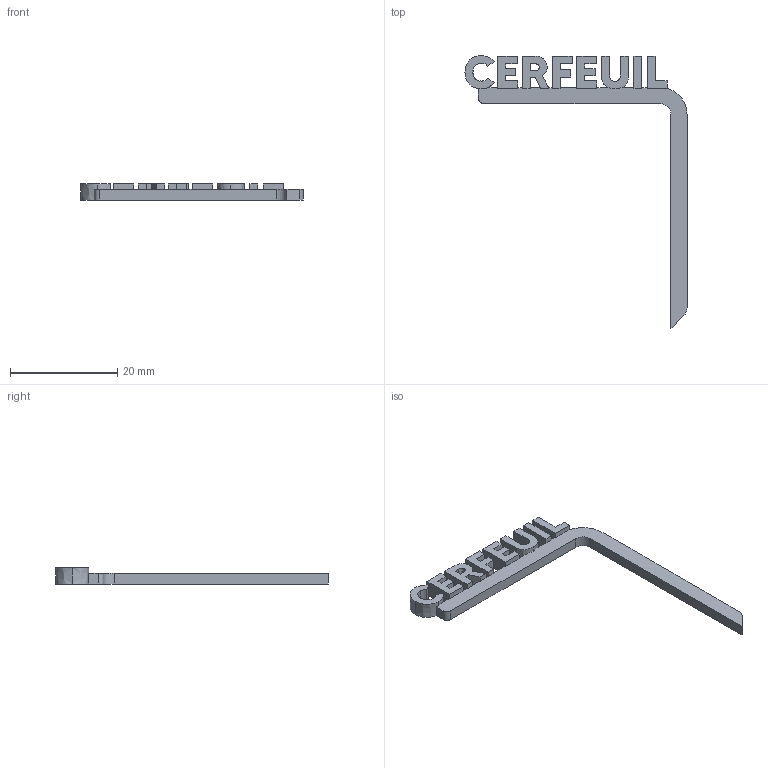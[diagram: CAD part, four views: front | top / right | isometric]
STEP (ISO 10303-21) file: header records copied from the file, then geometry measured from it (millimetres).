
FILE_DESCRIPTION(('STEP AP214'),'1');
FILE_NAME('Cerfeuil.stp','2025-04-24T13:35:37',(' '),(' '),'Spatial InterOp 3D',' ',' ');
FILE_SCHEMA(('AUTOMOTIVE_DESIGN { 1 0 10303 214 1 1 1 1 }'));
Length unit declared in the file: millimetre
Products named in the file (1): Cerfeuil
Bounding box: 41.5 x 50.97 x 3 mm (x, y, z)
Volume: 843.7 mm3; surface area: 1549 mm2
Topology: 1 solids, 1 shells, 106 faces, 317 edges, 212 vertices
Faces by surface type: plane 86, extrusion 16, cylinder 4
Entity records: 4551 total; most frequent: CARTESIAN_POINT 868, ORIENTED_EDGE 634, DIRECTION 485, EDGE_CURVE 317, VECTOR 287, LINE 271, VERTEX_POINT 212, EDGE_LOOP 109
